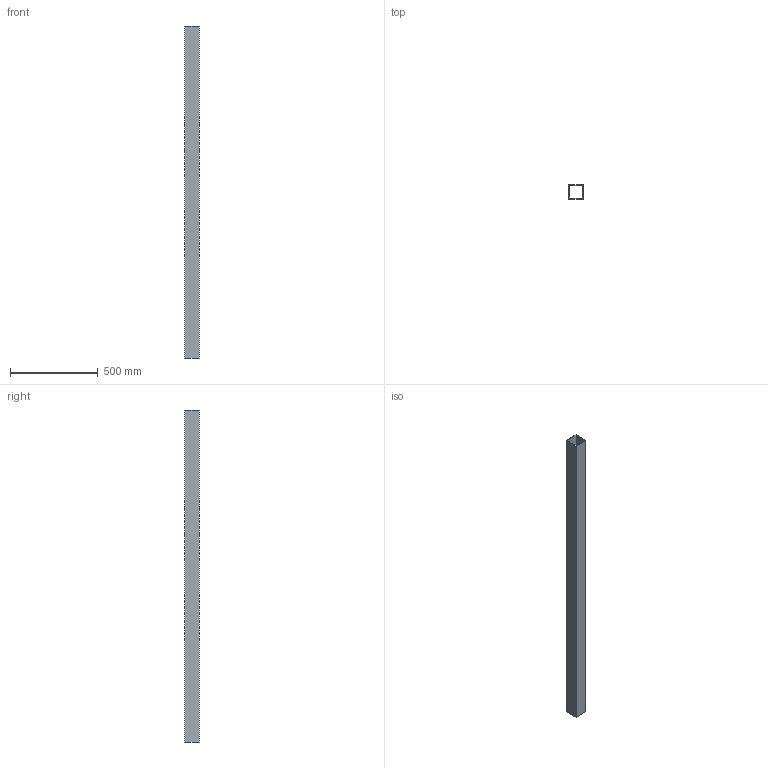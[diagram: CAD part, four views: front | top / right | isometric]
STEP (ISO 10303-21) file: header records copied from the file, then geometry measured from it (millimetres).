
FILE_DESCRIPTION(('Open CASCADE Model'),'2;1');
FILE_NAME('Open CASCADE Shape Model','2026-10-15T15:10:04',('Author'),( 'Open CASCADE'),'Open CASCADE STEP processor 8.0','Open CASCADE 8.0' ,'Unknown');
FILE_SCHEMA(('AUTOMOTIVE_DESIGN { 1 0 10303 214 1 1 1 1 }'));
Length unit declared in the file: millimetre
Products named in the file (1): SHS80x80x4_L1888000_P05 18
Bounding box: 80 x 80 x 1888 mm (x, y, z)
Volume: 2295808 mm3; surface area: 1150336 mm2
Topology: 1 solids, 1 shells, 10 faces, 24 edges, 16 vertices
Faces by surface type: plane 10
Entity records: 614 total; most frequent: CARTESIAN_POINT 99, DIRECTION 94, LINE 72, VECTOR 72, ORIENTED_EDGE 48, PCURVE 48, DEFINITIONAL_REPRESENTATION 48, EDGE_CURVE 24
